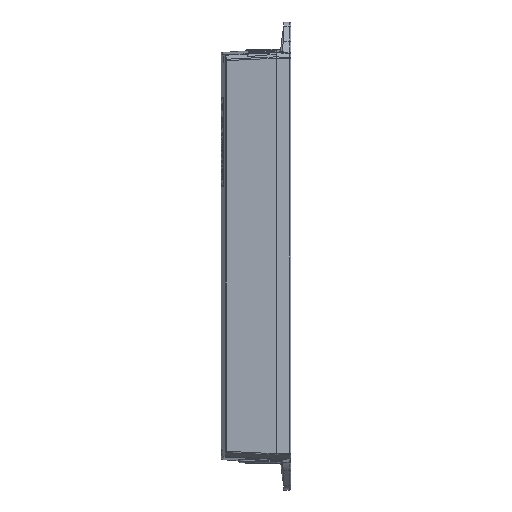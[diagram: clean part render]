
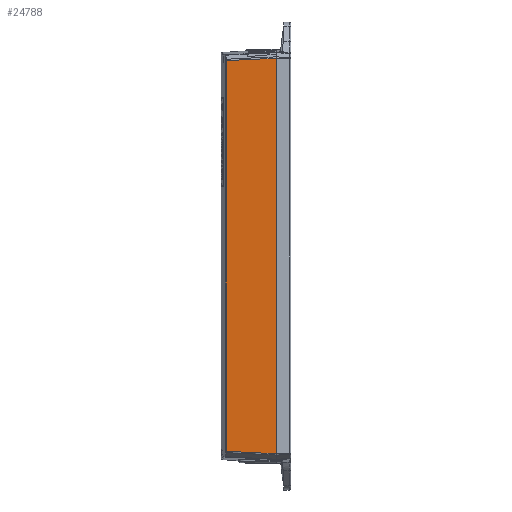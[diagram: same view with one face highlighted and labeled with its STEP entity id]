
A CAD part, left-side view. The second image highlights one B-rep face of the part: STEP entity #24788.
In plain terms, the highlighted planar face has unit normal (-0.999, 0.052, 0).
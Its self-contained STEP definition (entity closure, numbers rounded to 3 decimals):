
#1841 = CARTESIAN_POINT ( 'NONE',  ( -99.883, -14.775, -115.517 ) ) ;
#2163 = LINE ( 'NONE', #35749, #31731 ) ;
#4748 = VERTEX_POINT ( 'NONE', #19988 ) ;
#4803 = VERTEX_POINT ( 'NONE', #1841 ) ;
#6401 = DIRECTION ( 'NONE',  ( -0.999, 0.052, 0. ) ) ;
#9124 = CARTESIAN_POINT ( 'NONE',  ( -99.883, -14.775, 115.511 ) ) ;
#9451 = EDGE_CURVE ( 'NONE', #41304, #4803, #28464, .T. ) ;
#12844 = EDGE_CURVE ( 'NONE', #40269, #41304, #2163, .T. ) ;
#13514 = DIRECTION ( 'NONE',  ( 0., 0., -1. ) ) ;
#15924 = DIRECTION ( 'NONE',  ( 0., 0., 1. ) ) ;
#18493 = ORIENTED_EDGE ( 'NONE', *, *, #38976, .T. ) ;
#18633 = VECTOR ( 'NONE', #33279, 1000. ) ;
#18808 = CARTESIAN_POINT ( 'NONE',  ( -98.359, 14.297, -114.117 ) ) ;
#19988 = CARTESIAN_POINT ( 'NONE',  ( -99.883, -14.775, 115.511 ) ) ;
#21429 = ORIENTED_EDGE ( 'NONE', *, *, #32167, .T. ) ;
#23793 = AXIS2_PLACEMENT_3D ( 'NONE', #39733, #6401, #47136 ) ;
#23902 = FACE_OUTER_BOUND ( 'NONE', #42886, .T. ) ;
#24788 = ADVANCED_FACE ( 'NONE', ( #23902 ), #43407, .T. ) ;
#27311 = VECTOR ( 'NONE', #31382, 1000. ) ;
#28464 = LINE ( 'NONE', #40534, #18633 ) ;
#29212 = LINE ( 'NONE', #41805, #47677 ) ;
#30734 = CARTESIAN_POINT ( 'NONE',  ( -98.359, 14.297, 114.111 ) ) ;
#31382 = DIRECTION ( 'NONE',  ( 0.052, 0.997, -0.048 ) ) ;
#31731 = VECTOR ( 'NONE', #13514, 1000. ) ;
#32167 = EDGE_CURVE ( 'NONE', #4803, #4748, #29212, .T. ) ;
#33279 = DIRECTION ( 'NONE',  ( -0.052, -0.997, -0.048 ) ) ;
#33451 = ORIENTED_EDGE ( 'NONE', *, *, #12844, .T. ) ;
#34842 = LINE ( 'NONE', #9124, #27311 ) ;
#35749 = CARTESIAN_POINT ( 'NONE',  ( -98.359, 14.297, 118.497 ) ) ;
#36422 = ORIENTED_EDGE ( 'NONE', *, *, #9451, .T. ) ;
#38976 = EDGE_CURVE ( 'NONE', #4748, #40269, #34842, .T. ) ;
#39733 = CARTESIAN_POINT ( 'NONE',  ( -99.883, -14.775, 118.497 ) ) ;
#40269 = VERTEX_POINT ( 'NONE', #30734 ) ;
#40534 = CARTESIAN_POINT ( 'NONE',  ( -98.426, 13.028, -114.178 ) ) ;
#41304 = VERTEX_POINT ( 'NONE', #18808 ) ;
#41805 = CARTESIAN_POINT ( 'NONE',  ( -99.883, -14.775, 128.082 ) ) ;
#42886 = EDGE_LOOP ( 'NONE', ( #18493, #33451, #36422, #21429 ) ) ;
#43407 = PLANE ( 'NONE',  #23793 ) ;
#47136 = DIRECTION ( 'NONE',  ( -0.052, -0.999, 0. ) ) ;
#47677 = VECTOR ( 'NONE', #15924, 1000. ) ;
